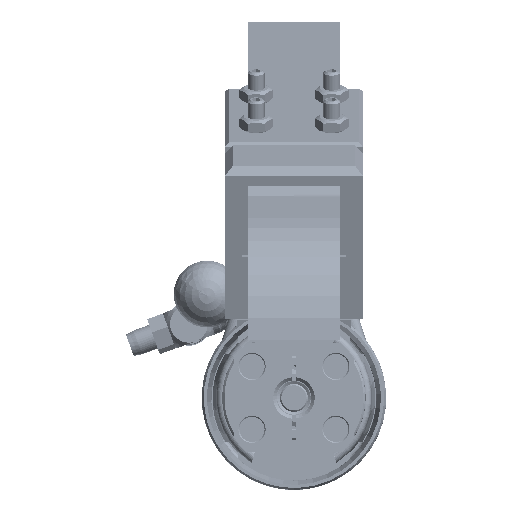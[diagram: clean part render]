
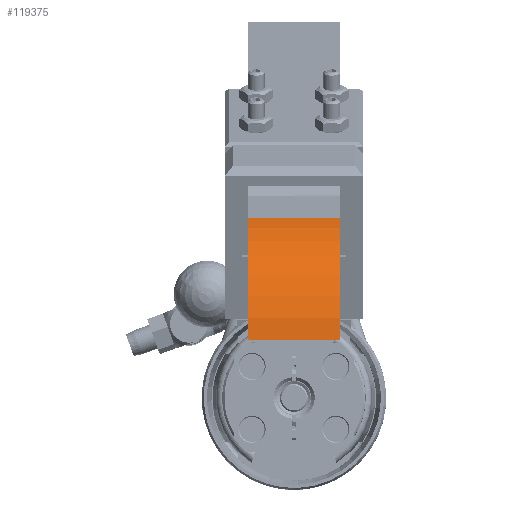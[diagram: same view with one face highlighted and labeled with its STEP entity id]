
A CAD part, front view. The second image highlights one B-rep face of the part: STEP entity #119375.
In plain terms, the highlighted cylindrical face has radius 31 mm (diameter 62 mm), a partial arc.
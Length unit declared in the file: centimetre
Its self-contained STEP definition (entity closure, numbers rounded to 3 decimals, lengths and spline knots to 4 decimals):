
#7946=LINE($,#241857,#14061);
#7950=LINE($,#241867,#14065);
#14061=VECTOR($,#160707,2.2);
#14065=VECTOR($,#160715,2.2);
#19724=CYLINDRICAL_SURFACE($,#131691,3.1);
#28718=FACE_OUTER_BOUND($,#37253,.T.);
#37253=EDGE_LOOP($,(#98587,#98588,#98589,#98590));
#43339=CIRCLE($,#131692,3.1);
#43340=CIRCLE($,#131693,3.1);
#53583=VERTEX_POINT($,#241855);
#53584=VERTEX_POINT($,#241856);
#53587=VERTEX_POINT($,#241864);
#53588=VERTEX_POINT($,#241866);
#68940=EDGE_CURVE($,#53583,#53584,#7946,.T.);
#68944=EDGE_CURVE($,#53584,#53587,#43339,.T.);
#68945=EDGE_CURVE($,#53587,#53588,#7950,.T.);
#68946=EDGE_CURVE($,#53588,#53583,#43340,.T.);
#98587=ORIENTED_EDGE($,*,*,#68940,.T.);
#98588=ORIENTED_EDGE($,*,*,#68944,.T.);
#98589=ORIENTED_EDGE($,*,*,#68945,.T.);
#98590=ORIENTED_EDGE($,*,*,#68946,.T.);
#119375=ADVANCED_FACE($,(#28718),#19724,.T.);
#131691=AXIS2_PLACEMENT_3D($,#241863,#160711,#160712);
#131692=AXIS2_PLACEMENT_3D($,#241865,#160713,#160714);
#131693=AXIS2_PLACEMENT_3D($,#241868,#160716,#160717);
#160707=DIRECTION($,(1.,0.,0.));
#160711=DIRECTION('center_axis',(-1.,0.,
0.));
#160712=DIRECTION('ref_axis',(0.,0.343,
-0.94));
#160713=DIRECTION('center_axis',(-1.,0.,
0.));
#160714=DIRECTION('ref_axis',(0.,0.343,
-0.94));
#160715=DIRECTION($,(-1.,0.,0.));
#160716=DIRECTION('center_axis',(1.,0.,
0.));
#160717=DIRECTION('ref_axis',(0.,-0.343,
0.94));
#241855=CARTESIAN_POINT('',(-1.1,-36.0781,1.3608));
#241856=CARTESIAN_POINT('',(1.1,-36.0781,1.3608));
#241857=CARTESIAN_POINT($,(1.1,-36.0781,1.3608));
#241863=CARTESIAN_POINT('Origin',(1.1,-32.9781,1.3624));
#241864=CARTESIAN_POINT('',(1.1,-34.0399,4.2749));
#241865=CARTESIAN_POINT('Origin',(1.1,-32.9781,1.3624));
#241866=CARTESIAN_POINT('',(-1.1,-34.0399,4.2749));
#241867=CARTESIAN_POINT($,(1.1,-34.0399,4.2749));
#241868=CARTESIAN_POINT('Origin',(-1.1,-32.9781,1.3624));
